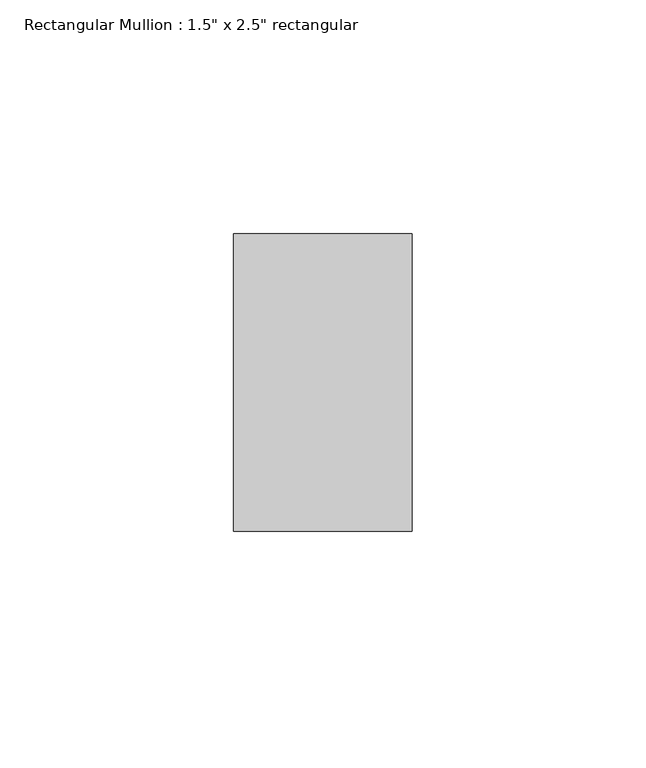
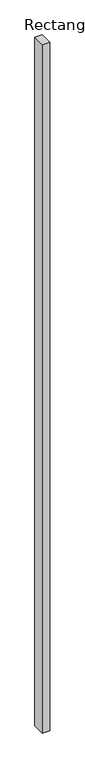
"""IFC4 building model written with IfcOpenShell, lengths in millimetres: member geometry."""

from ifc_helpers import new_model, si_unit, frame, origin, place, context, project, spatial, polyline, outline, extrude, source, transform, mapped, element, save


def member_8dc9af40(model_context):
    return source(origin(), model_context, "Body", "SweptSolid", [
        extrude(outline(polyline([(0.0, 31.75), (0.0, -31.75), (-38.1, -31.75), (-38.1, 31.75), (0.0, 31.75)])), frame((0.0, 0.0, -3657.6), z_axis=(0.0, 0.0, 1.0), x_axis=(1.0, 0.0, 0.0)), (0.0, 0.0, 1.0), 3657.6),
    ])


if __name__ == "__main__":
    model = new_model("IFC4")
    model_context = context("Model", 3, world=origin())
    ifc_project = project(units=[si_unit("LENGTHUNIT", "METRE", prefix="MILLI")], contexts=[model_context])
    site = spatial("IfcSite", under=ifc_project)
    building = spatial("IfcBuilding", under=site)
    placement = place(None, origin())
    member_shape = member_8dc9af40(model_context)
    element("IfcMember", 1, ObjectType="Rectangular Mullion : 1.5\" x 2.5\" rectangular", at=placement, inside=building, context=model_context, shape_type="MappedRepresentation", body=[
        mapped(member_shape, transform((0.0, 0.0, 0.0), x_axis=(1.0, 0.0, 0.0), y_axis=(0.0, 1.0, 0.0), z_axis=(0.0, 0.0, 1.0))),
    ])
    save(model, "model.ifc")
